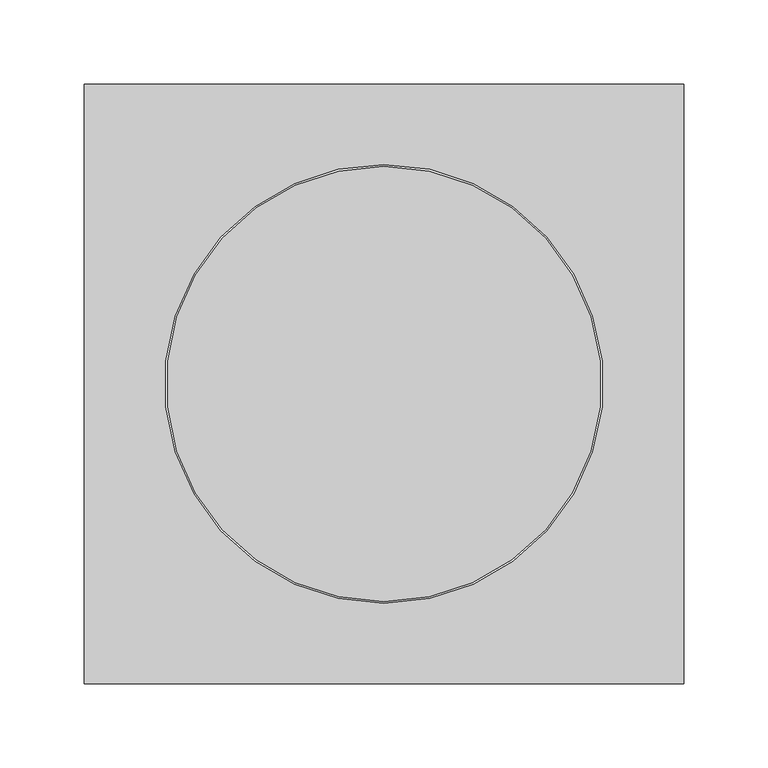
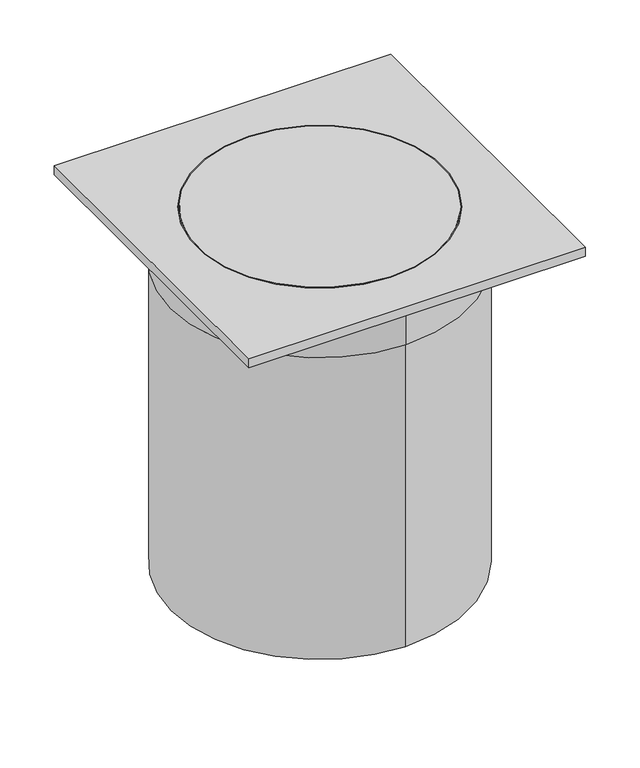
"""IFC4 building model written with IfcOpenShell, lengths in millimetres: valve geometry, Pipelife - Studnia PRO - Teleskop 315 : 1.5t/315/400 A15 T05D."""

from ifc_helpers import new_model, si_unit, point, frame, origin, origin_with_axes, origin_2d, place, context, project, spatial, polyline, circle_curve, trimmed, segment, composite_curve, outline, extrude, source, transform, mapped, element, save
from ifc_brep_helpers import plane_surface, cylinder_surface, revolved_surface, advanced_brep


def valve_339d7062(model_context):
    return source(origin(), model_context, "Body", "SolidModel", [
        extrude(outline(polyline([(-178.5, -178.5), (-178.5, 178.5), (178.5, 178.5), (178.5, -178.5), (-178.5, -178.5)]), holes=[composite_curve([segment(trimmed(circle_curve(origin_2d(), 130.5), [point((0.0, 130.5))], [point((0.0, -130.5))], True, "CARTESIAN"), True, "CONTINUOUS"), segment(trimmed(circle_curve(origin_2d(), 130.5), [point((0.0, -130.5))], [point((0.0, 130.5))], True, "CARTESIAN"), True, "CONTINUOUS")], self_intersect=False)]), frame((0.0, 0.0, 388.0), z_axis=(0.0, 0.0, 1.0), x_axis=(1.0, 0.0, 0.0)), (0.0, 0.0, 1.0), 10.0),
        extrude(outline(composite_curve([segment(trimmed(circle_curve(origin_2d(), 129.5), [point((0.0, 129.5))], [point((0.0, -129.5))], False, "CARTESIAN"), True, "CONTINUOUS"), segment(trimmed(circle_curve(origin_2d(), 129.5), [point((0.0, -129.5))], [point((0.0, 129.5))], False, "CARTESIAN"), True, "CONTINUOUS")], self_intersect=False)), frame((0.0, 0.0, 387.0), z_axis=(0.0, 0.0, 1.0), x_axis=(1.0, 0.0, 0.0)), (0.0, 0.0, 1.0), 11.0),
        advanced_brep(
        [(0.0, 158.0, 388.0), (0.0, -158.0, 388.0), (0.0, -130.5, 388.0), (0.0, 130.5, 388.0), (0.0, 158.0, 339.0), (0.0, -158.0, 339.0), (0.0, 151.0, 339.0), (0.0, -151.0, 339.0), (0.0, 151.0, 387.0), (0.0, -151.0, 387.0), (0.0, 130.5, 387.0), (0.0, -130.5, 387.0)],
        [
            (0, 1, circle_curve(frame((0.0, 0.0, 388.0), z_axis=(0.0, 0.0, 1.0), x_axis=(0.0, -1.0, 0.0)), 158.0)),
            (1, 0, circle_curve(frame((0.0, 0.0, 388.0), z_axis=(0.0, 0.0, 1.0), x_axis=(0.0, -1.0, 0.0)), 158.0)),
            (2, 3, circle_curve(frame((0.0, 0.0, 388.0), z_axis=(0.0, 0.0, -1.0), x_axis=(0.0, -1.0, 0.0)), 130.5)),
            (3, 2, circle_curve(frame((0.0, 0.0, 388.0), z_axis=(0.0, 0.0, -1.0), x_axis=(0.0, -1.0, 0.0)), 130.5)),
            (4, 5, circle_curve(frame((0.0, 0.0, 339.0), z_axis=(0.0, 0.0, -1.0), x_axis=(0.0, -1.0, 0.0)), 158.0)),
            (5, 4, circle_curve(frame((0.0, 0.0, 339.0), z_axis=(0.0, 0.0, -1.0), x_axis=(0.0, -1.0, 0.0)), 158.0)),
            (6, 7, circle_curve(frame((0.0, 0.0, 339.0), z_axis=(0.0, 0.0, 1.0), x_axis=(0.0, -1.0, 0.0)), 151.0)),
            (7, 6, circle_curve(frame((0.0, 0.0, 339.0), z_axis=(0.0, 0.0, 1.0), x_axis=(0.0, -1.0, 0.0)), 151.0)),
            (0, 4),
            (5, 1),
            (8, 9, circle_curve(frame((0.0, 0.0, 387.0), z_axis=(0.0, 0.0, -1.0), x_axis=(0.0, -1.0, 0.0)), 151.0)),
            (9, 8, circle_curve(frame((0.0, 0.0, 387.0), z_axis=(0.0, 0.0, -1.0), x_axis=(0.0, -1.0, 0.0)), 151.0)),
            (10, 11, circle_curve(frame((0.0, 0.0, 387.0), z_axis=(0.0, 0.0, 1.0), x_axis=(0.0, -1.0, 0.0)), 130.5)),
            (11, 10, circle_curve(frame((0.0, 0.0, 387.0), z_axis=(0.0, 0.0, 1.0), x_axis=(0.0, -1.0, 0.0)), 130.5)),
            (9, 7),
            (6, 8),
            (10, 3),
            (2, 11),
        ],
        [
            plane_surface(frame((0.0, 0.0, 388.0), z_axis=(0.0, 0.0, 1.0), x_axis=(0.0, -1.0, 0.0))),
            plane_surface(frame((0.0, 0.0, 339.0), z_axis=(0.0, 0.0, -1.0), x_axis=(0.0, -1.0, 0.0))),
            cylinder_surface(frame((0.0, 0.0, 388.0), z_axis=(0.0, 0.0, 1.0), x_axis=(0.0, -1.0, 0.0)), 158.0),
            plane_surface(frame((0.0, 0.0, 387.0), z_axis=(0.0, 0.0, -1.0), x_axis=(0.0, -1.0, 0.0))),
            revolved_surface(polyline([(0.0, -151.0, 387.0), (0.0, -151.0, 339.0)]), (0.0, 0.0, 387.0), (0.0, 0.0, 1.0)),
            revolved_surface(polyline([(0.0, -130.5, 388.0), (0.0, -130.5, 387.0)]), (0.0, 0.0, 398.0), (0.0, 0.0, 1.0)),
        ],
        [
            (0, [[1, 2], [3, 4]]),
            (1, [[5, 6], [7, 8]]),
            (2, [[-1, 9, -6, 10]]),
            (2, [[-2, -10, -5, -9]]),
            (3, [[11, 12], [13, 14]]),
            (4, [[-12, 15, -7, 16]]),
            (4, [[-11, -16, -8, -15]]),
            (5, [[17, -3, 18, -13]]),
            (5, [[-17, -14, -18, -4]]),
        ],
    ),
        extrude(outline(composite_curve([segment(trimmed(circle_curve(origin_2d(), 157.5), [point((0.0, 157.5))], [point((0.0, -157.5))], False, "CARTESIAN"), True, "CONTINUOUS"), segment(trimmed(circle_curve(origin_2d(), 157.5), [point((0.0, -157.5))], [point((0.0, 157.5))], False, "CARTESIAN"), True, "CONTINUOUS")], self_intersect=False), holes=[composite_curve([segment(trimmed(circle_curve(origin_2d(), 151.0), [point((0.0, 151.0))], [point((0.0, -151.0))], True, "CARTESIAN"), True, "CONTINUOUS"), segment(trimmed(circle_curve(origin_2d(), 151.0), [point((0.0, -151.0))], [point((0.0, 151.0))], True, "CARTESIAN"), True, "CONTINUOUS")], self_intersect=False)]), origin_with_axes(), (0.0, 0.0, 1.0), 339.0),
    ])


if __name__ == "__main__":
    model = new_model("IFC4")
    model_context = context("Model", 3, world=origin())
    ifc_project = project(units=[si_unit("LENGTHUNIT", "METRE", prefix="MILLI")], contexts=[model_context])
    site = spatial("IfcSite", under=ifc_project)
    building = spatial("IfcBuilding", under=site)
    placement = place(None, origin())
    valve_shape = valve_339d7062(model_context)
    element("IfcValve", 1, ObjectType="Pipelife - Studnia PRO - Teleskop 315 : 1.5t/315/400 A15 T05D", at=placement, inside=building, context=model_context, shape_type="MappedRepresentation", body=[
        mapped(valve_shape, transform((0.0, 0.0, 0.0), x_axis=(1.0, 0.0, 0.0), y_axis=(0.0, 1.0, 0.0), z_axis=(0.0, 0.0, 1.0))),
    ])
    save(model, "model.ifc")
